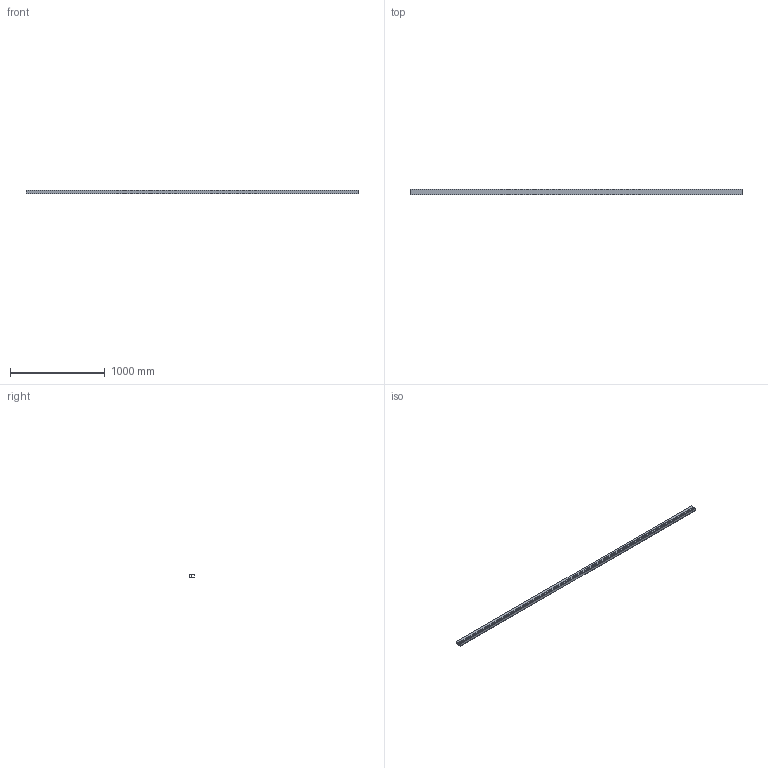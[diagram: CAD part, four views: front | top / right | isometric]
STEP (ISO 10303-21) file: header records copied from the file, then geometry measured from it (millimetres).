
FILE_DESCRIPTION(('STEP AP242'),'1');
FILE_NAME('OPO_65.081.43.stp','2026-01-30T20:50:33',(' '),(' '),'Spatial InterOp 3D',' ',' ');
FILE_SCHEMA(('AP242_MANAGED_MODEL_BASED_3D_ENGINEERING_MIM_LF {1 0 10303 442 1 1 4}'));
Length unit declared in the file: millimetre
Products named in the file (1): 1
Bounding box: 3500 x 59 x 33 mm (x, y, z)
Volume: 1665781.3 mm3; surface area: 1370889.5 mm2
Topology: 1 solids, 1 shells, 88 faces, 244 edges, 162 vertices
Faces by surface type: plane 68, cylinder 20
Entity records: 3516 total; most frequent: CARTESIAN_POINT 495, ORIENTED_EDGE 488, DIRECTION 462, EDGE_CURVE 244, LINE 204, VECTOR 204, VERTEX_POINT 162, AXIS2_PLACEMENT_3D 129
